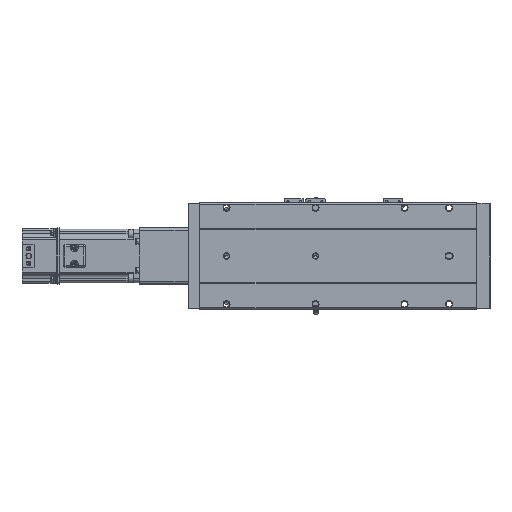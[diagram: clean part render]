
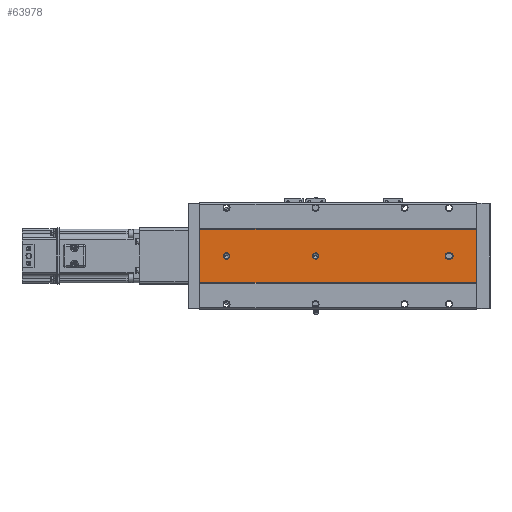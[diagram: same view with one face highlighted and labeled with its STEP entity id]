
A CAD part, front view. The second image highlights one B-rep face of the part: STEP entity #63978.
In plain terms, the highlighted planar face has unit normal (0, -1, 0).
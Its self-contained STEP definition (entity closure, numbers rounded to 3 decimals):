
#1048 = VERTEX_POINT ( 'NONE', #50272 ) ;
#1362 = CARTESIAN_POINT ( 'NONE',  ( -39.892, -52.848, 181. ) ) ;
#2789 = ORIENTED_EDGE ( 'NONE', *, *, #76073, .T. ) ;
#2828 = AXIS2_PLACEMENT_3D ( 'NONE', #70281, #63985, #44513 ) ;
#3570 = DIRECTION ( 'NONE',  ( 1., 0., 0. ) ) ;
#3904 = PLANE ( 'NONE',  #47509 ) ;
#4191 = VERTEX_POINT ( 'NONE', #37562 ) ;
#4631 = CARTESIAN_POINT ( 'NONE',  ( -69.892, -52.848, 311. ) ) ;
#4808 = VERTEX_POINT ( 'NONE', #37554 ) ;
#6634 = EDGE_CURVE ( 'NONE', #39959, #57903, #68491, .T. ) ;
#6765 = EDGE_LOOP ( 'NONE', ( #51170, #21798 ) ) ;
#6971 = AXIS2_PLACEMENT_3D ( 'NONE', #1362, #35182, #53731 ) ;
#8112 = VERTEX_POINT ( 'NONE', #67387 ) ;
#8451 = LINE ( 'NONE', #26350, #47417 ) ;
#8527 = CARTESIAN_POINT ( 'NONE',  ( -39.892, -52.848, 284.5 ) ) ;
#8680 = CARTESIAN_POINT ( 'NONE',  ( -9.892, -52.848, 0. ) ) ;
#8883 = CARTESIAN_POINT ( 'NONE',  ( -69.892, -52.848, 0. ) ) ;
#9628 = CIRCLE ( 'NONE', #29216, 3.5 ) ;
#10083 = LINE ( 'NONE', #35950, #46969 ) ;
#11240 = DIRECTION ( 'NONE',  ( 0., 0., -1. ) ) ;
#12099 = VERTEX_POINT ( 'NONE', #8883 ) ;
#12541 = CIRCLE ( 'NONE', #6971, 3.5 ) ;
#13948 = VERTEX_POINT ( 'NONE', #14939 ) ;
#14939 = CARTESIAN_POINT ( 'NONE',  ( -36.392, -52.848, 32. ) ) ;
#15125 = CARTESIAN_POINT ( 'NONE',  ( -39.892, -52.848, 26.5 ) ) ;
#16531 = CARTESIAN_POINT ( 'NONE',  ( -69.892, -52.848, 311. ) ) ;
#17114 = DIRECTION ( 'NONE',  ( 0., 0., 1. ) ) ;
#17404 = DIRECTION ( 'NONE',  ( 0., 0., 1. ) ) ;
#17473 = LINE ( 'NONE', #4631, #78866 ) ;
#17689 = CARTESIAN_POINT ( 'NONE',  ( -39.892, -52.848, 30. ) ) ;
#18116 = ORIENTED_EDGE ( 'NONE', *, *, #46319, .T. ) ;
#18174 = EDGE_CURVE ( 'NONE', #74801, #8112, #69159, .T. ) ;
#18873 = CARTESIAN_POINT ( 'NONE',  ( -36.392, -52.848, 311. ) ) ;
#19808 = EDGE_LOOP ( 'NONE', ( #31467, #60757, #26370, #84426 ) ) ;
#20136 = DIRECTION ( 'NONE',  ( 0., 0., 1. ) ) ;
#21179 = DIRECTION ( 'NONE',  ( 0., 1., 0. ) ) ;
#21798 = ORIENTED_EDGE ( 'NONE', *, *, #18174, .T. ) ;
#25056 = EDGE_CURVE ( 'NONE', #8112, #74801, #12541, .T. ) ;
#26350 = CARTESIAN_POINT ( 'NONE',  ( -43.392, -52.848, 311. ) ) ;
#26370 = ORIENTED_EDGE ( 'NONE', *, *, #44619, .F. ) ;
#26428 = VECTOR ( 'NONE', #56896, 1000. ) ;
#28068 = EDGE_CURVE ( 'NONE', #12099, #57903, #10083, .T. ) ;
#28183 = CIRCLE ( 'NONE', #44895, 3.5 ) ;
#28430 = DIRECTION ( 'NONE',  ( 0., 0., 1. ) ) ;
#29216 = AXIS2_PLACEMENT_3D ( 'NONE', #75977, #69976, #50471 ) ;
#29750 = AXIS2_PLACEMENT_3D ( 'NONE', #42068, #54635, #28430 ) ;
#30597 = DIRECTION ( 'NONE',  ( 0., 1., 0. ) ) ;
#31467 = ORIENTED_EDGE ( 'NONE', *, *, #28068, .T. ) ;
#31507 = LINE ( 'NONE', #66723, #50882 ) ;
#35182 = DIRECTION ( 'NONE',  ( 0., 1., 0. ) ) ;
#35950 = CARTESIAN_POINT ( 'NONE',  ( -69.892, -52.848, 0. ) ) ;
#36960 = EDGE_CURVE ( 'NONE', #41686, #4191, #9628, .T. ) ;
#37554 = CARTESIAN_POINT ( 'NONE',  ( -69.892, -52.848, 311. ) ) ;
#37562 = CARTESIAN_POINT ( 'NONE',  ( -39.892, -52.848, 277.5 ) ) ;
#37910 = AXIS2_PLACEMENT_3D ( 'NONE', #17689, #30597, #17114 ) ;
#39763 = ORIENTED_EDGE ( 'NONE', *, *, #44718, .T. ) ;
#39959 = VERTEX_POINT ( 'NONE', #73750 ) ;
#40121 = DIRECTION ( 'NONE',  ( 1., 0., 0. ) ) ;
#41686 = VERTEX_POINT ( 'NONE', #8527 ) ;
#42068 = CARTESIAN_POINT ( 'NONE',  ( -39.892, -52.848, 281. ) ) ;
#44072 = VERTEX_POINT ( 'NONE', #72871 ) ;
#44513 = DIRECTION ( 'NONE',  ( 0., 0., 1. ) ) ;
#44619 = EDGE_CURVE ( 'NONE', #4808, #39959, #31507, .T. ) ;
#44718 = EDGE_CURVE ( 'NONE', #4191, #41686, #70387, .T. ) ;
#44895 = AXIS2_PLACEMENT_3D ( 'NONE', #60340, #21179, #67218 ) ;
#46319 = EDGE_CURVE ( 'NONE', #13948, #44072, #63229, .T. ) ;
#46969 = VECTOR ( 'NONE', #3570, 1000. ) ;
#47417 = VECTOR ( 'NONE', #78648, 1000. ) ;
#47509 = AXIS2_PLACEMENT_3D ( 'NONE', #16531, #48833, #17404 ) ;
#48833 = DIRECTION ( 'NONE',  ( 0., 1., 0. ) ) ;
#50272 = CARTESIAN_POINT ( 'NONE',  ( -43.392, -52.848, 32. ) ) ;
#50471 = DIRECTION ( 'NONE',  ( 0., 0., 1. ) ) ;
#50882 = VECTOR ( 'NONE', #40121, 1000. ) ;
#51170 = ORIENTED_EDGE ( 'NONE', *, *, #25056, .T. ) ;
#51332 = EDGE_CURVE ( 'NONE', #4808, #12099, #17473, .T. ) ;
#51708 = CARTESIAN_POINT ( 'NONE',  ( -9.892, -52.848, 311. ) ) ;
#52568 = ORIENTED_EDGE ( 'NONE', *, *, #60854, .T. ) ;
#53083 = VECTOR ( 'NONE', #57714, 1000. ) ;
#53731 = DIRECTION ( 'NONE',  ( 0., 0., 1. ) ) ;
#54224 = FACE_OUTER_BOUND ( 'NONE', #19808, .T. ) ;
#54635 = DIRECTION ( 'NONE',  ( 0., 1., 0. ) ) ;
#55482 = EDGE_LOOP ( 'NONE', ( #79414, #52568, #18116, #2789, #73341 ) ) ;
#56896 = DIRECTION ( 'NONE',  ( 0., 0., -1. ) ) ;
#57714 = DIRECTION ( 'NONE',  ( 0., 0., -1. ) ) ;
#57903 = VERTEX_POINT ( 'NONE', #8680 ) ;
#59772 = ORIENTED_EDGE ( 'NONE', *, *, #36960, .T. ) ;
#60340 = CARTESIAN_POINT ( 'NONE',  ( -39.892, -52.848, 30. ) ) ;
#60757 = ORIENTED_EDGE ( 'NONE', *, *, #6634, .F. ) ;
#60854 = EDGE_CURVE ( 'NONE', #1048, #13948, #71135, .T. ) ;
#62499 = FACE_BOUND ( 'NONE', #55482, .T. ) ;
#62701 = EDGE_LOOP ( 'NONE', ( #39763, #59772 ) ) ;
#63229 = LINE ( 'NONE', #18873, #26428 ) ;
#63978 = ADVANCED_FACE ( 'NONE', ( #62499, #71717, #65545, #54224 ), #3904, .F. ) ;
#63985 = DIRECTION ( 'NONE',  ( 0., 1., 0. ) ) ;
#65294 = EDGE_CURVE ( 'NONE', #71605, #70601, #28183, .T. ) ;
#65545 = FACE_BOUND ( 'NONE', #62701, .T. ) ;
#65933 = EDGE_CURVE ( 'NONE', #70601, #1048, #8451, .T. ) ;
#66452 = CARTESIAN_POINT ( 'NONE',  ( -39.892, -52.848, 32. ) ) ;
#66723 = CARTESIAN_POINT ( 'NONE',  ( -69.892, -52.848, 311. ) ) ;
#67218 = DIRECTION ( 'NONE',  ( 0., 0., 1. ) ) ;
#67387 = CARTESIAN_POINT ( 'NONE',  ( -39.892, -52.848, 177.5 ) ) ;
#68491 = LINE ( 'NONE', #51708, #53083 ) ;
#69159 = CIRCLE ( 'NONE', #2828, 3.5 ) ;
#69477 = CARTESIAN_POINT ( 'NONE',  ( -43.392, -52.848, 30. ) ) ;
#69976 = DIRECTION ( 'NONE',  ( 0., 1., 0. ) ) ;
#70281 = CARTESIAN_POINT ( 'NONE',  ( -39.892, -52.848, 181. ) ) ;
#70387 = CIRCLE ( 'NONE', #29750, 3.5 ) ;
#70601 = VERTEX_POINT ( 'NONE', #69477 ) ;
#71135 = CIRCLE ( 'NONE', #83557, 3.5 ) ;
#71605 = VERTEX_POINT ( 'NONE', #15125 ) ;
#71717 = FACE_BOUND ( 'NONE', #6765, .T. ) ;
#72871 = CARTESIAN_POINT ( 'NONE',  ( -36.392, -52.848, 30. ) ) ;
#73341 = ORIENTED_EDGE ( 'NONE', *, *, #65294, .T. ) ;
#73750 = CARTESIAN_POINT ( 'NONE',  ( -9.892, -52.848, 311. ) ) ;
#74801 = VERTEX_POINT ( 'NONE', #80090 ) ;
#75977 = CARTESIAN_POINT ( 'NONE',  ( -39.892, -52.848, 281. ) ) ;
#76073 = EDGE_CURVE ( 'NONE', #44072, #71605, #76099, .T. ) ;
#76099 = CIRCLE ( 'NONE', #37910, 3.5 ) ;
#78648 = DIRECTION ( 'NONE',  ( 0., 0., 1. ) ) ;
#78866 = VECTOR ( 'NONE', #11240, 1000. ) ;
#79055 = DIRECTION ( 'NONE',  ( 0., 1., 0. ) ) ;
#79414 = ORIENTED_EDGE ( 'NONE', *, *, #65933, .T. ) ;
#80090 = CARTESIAN_POINT ( 'NONE',  ( -39.892, -52.848, 184.5 ) ) ;
#83557 = AXIS2_PLACEMENT_3D ( 'NONE', #66452, #79055, #20136 ) ;
#84426 = ORIENTED_EDGE ( 'NONE', *, *, #51332, .T. ) ;
